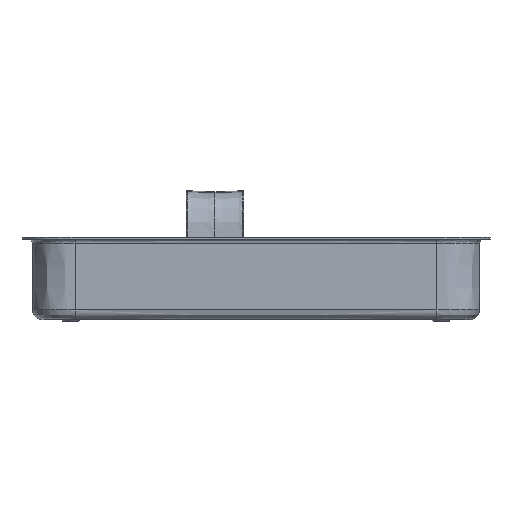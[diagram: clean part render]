
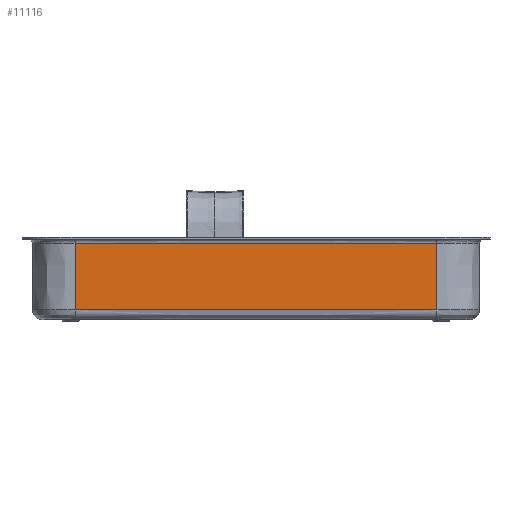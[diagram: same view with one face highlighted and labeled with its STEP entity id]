
A CAD part, left-side view. The second image highlights one B-rep face of the part: STEP entity #11116.
In plain terms, the highlighted free-form (B-spline) face has degree [2, 1] with [3, 2] control points.
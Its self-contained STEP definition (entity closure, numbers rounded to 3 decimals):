
#144=B_SPLINE_CURVE_WITH_KNOTS('',2,(#14714,#14715,#14716),
 .UNSPECIFIED.,.F.,.F.,(3,3),(0.,18.943),.UNSPECIFIED.);
#214=B_SPLINE_CURVE_WITH_KNOTS('',3,(#19275,#19276,#19277,#19278),
 .UNSPECIFIED.,.F.,.F.,(4,4),(0.,18.943),.UNSPECIFIED.);
#690=B_SPLINE_SURFACE_WITH_KNOTS('',2,1,((#20098,#20099),(#20100,#20101),
(#20102,#20103)),.UNSPECIFIED.,.F.,.F.,.F.,(3,3),(2,2),(-1.,0.),(0.,5.04),
 .UNSPECIFIED.);
#961=LINE('',#20104,#1866);
#962=LINE('',#20105,#1867);
#1866=VECTOR('',#12375,10.);
#1867=VECTOR('',#12376,10.);
#2914=FACE_OUTER_BOUND('',#3547,.T.);
#3547=EDGE_LOOP('',(#7257,#7258,#7259,#7260));
#4337=VERTEX_POINT('',#14537);
#4339=VERTEX_POINT('',#14705);
#4387=VERTEX_POINT('',#18528);
#4401=VERTEX_POINT('',#19141);
#5417=EDGE_CURVE('',#4339,#4337,#144,.T.);
#5523=EDGE_CURVE('',#4401,#4387,#214,.T.);
#5556=EDGE_CURVE('',#4401,#4337,#961,.T.);
#5557=EDGE_CURVE('',#4339,#4387,#962,.T.);
#7257=ORIENTED_EDGE('',*,*,#5417,.T.);
#7258=ORIENTED_EDGE('',*,*,#5556,.F.);
#7259=ORIENTED_EDGE('',*,*,#5523,.T.);
#7260=ORIENTED_EDGE('',*,*,#5557,.F.);
#11116=ADVANCED_FACE('',(#2914),#690,.T.);
#12375=DIRECTION('',(0.,0.,-1.));
#12376=DIRECTION('',(0.,0.,1.));
#14537=CARTESIAN_POINT('',(-115.053,-88.287,-16.015));
#14705=CARTESIAN_POINT('',(-115.053,101.145,-16.015));
#14714=CARTESIAN_POINT('Ctrl Pts',(-115.053,101.145,-16.015));
#14715=CARTESIAN_POINT('Ctrl Pts',(-115.053,6.429,-16.015));
#14716=CARTESIAN_POINT('Ctrl Pts',(-115.053,-88.287,
-16.015));
#18528=CARTESIAN_POINT('',(-115.053,101.145,18.985));
#19141=CARTESIAN_POINT('',(-115.053,-88.287,18.985));
#19275=CARTESIAN_POINT('Ctrl Pts',(-115.053,-88.287,
18.985));
#19276=CARTESIAN_POINT('Ctrl Pts',(-115.053,-25.143,
18.985));
#19277=CARTESIAN_POINT('Ctrl Pts',(-115.053,38.001,18.985));
#19278=CARTESIAN_POINT('Ctrl Pts',(-115.053,101.145,18.985));
#20098=CARTESIAN_POINT('Ctrl Pts',(-115.053,-88.287,
20.985));
#20099=CARTESIAN_POINT('Ctrl Pts',(-115.053,-88.287,
-29.415));
#20100=CARTESIAN_POINT('Ctrl Pts',(-115.053,6.429,20.985));
#20101=CARTESIAN_POINT('Ctrl Pts',(-115.053,6.429,-29.415));
#20102=CARTESIAN_POINT('Ctrl Pts',(-115.053,101.145,20.985));
#20103=CARTESIAN_POINT('Ctrl Pts',(-115.053,101.145,-29.415));
#20104=CARTESIAN_POINT('',(-115.053,-88.287,18.985));
#20105=CARTESIAN_POINT('',(-115.053,101.145,-16.015));
